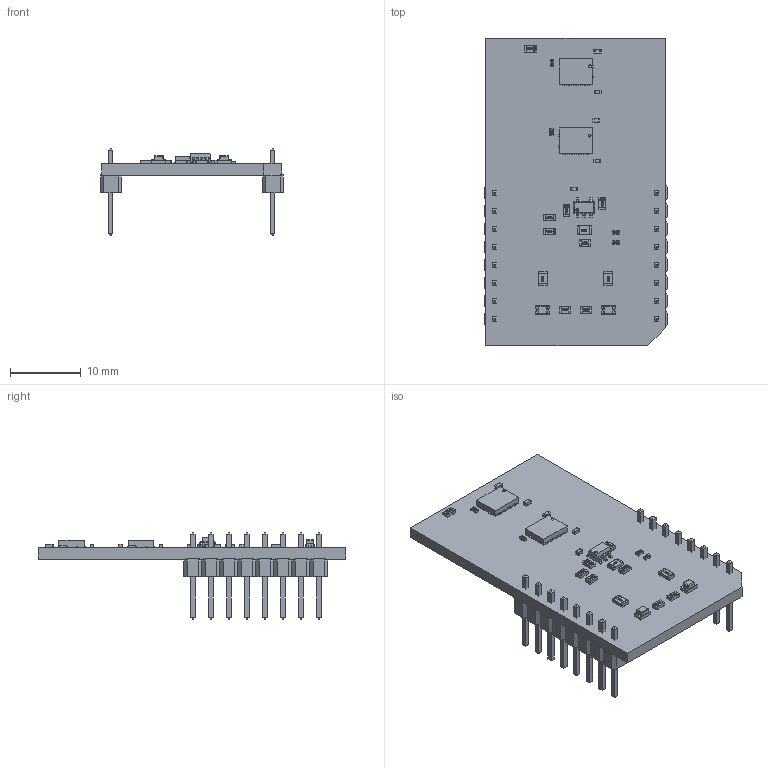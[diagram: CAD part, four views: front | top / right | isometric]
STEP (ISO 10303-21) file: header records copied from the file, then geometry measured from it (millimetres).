
FILE_DESCRIPTION(('Open CASCADE Model'),'2;1');
FILE_NAME('Open CASCADE Shape Model','2026-03-02T11:24:29',('Author'),( 'Open CASCADE'),'Open CASCADE STEP processor 6.8','Open CASCADE 6.8' ,'Unknown');
FILE_SCHEMA(('AUTOMOTIVE_DESIGN { 1 0 10303 214 1 1 1 1 }'));
Length unit declared in the file: millimetre
Products named in the file (50): PCB; Board; R1; User_Library-R_0603; LD1; led_0805_green; R13; User_Library-R_0402; R14; U2; 862477768; Extruded; 862480352; 862486608; 862487560; 1160701648; Cylinder; U1; R5; R3; R15; R2; LD2; C4; User_Library-SMD_CAPACITOR0402; C3; C2; C1; MBD1; Header_1x8; Free-Models; 1240637040; User_Library-PinHeaderX5-1_PinHeaderX5_Body_1; User_Library-PinHeaderX5-1_PinHeaderX5_Pins_1; C5; R6; R7; R8; User_Library-R_0805; R9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
Assembly tree (107 placements, depth 7):
  PCB
    Board
    R1
      User_Library-R_0603
    LD1
      led_0805_green
    R13
      User_Library-R_0402
    R14
      User_Library-R_0402
    U2
      862477768
        Extruded
      862480352  x16
        Extruded
      862486608  x3
        Extruded
      862487560
        Extruded
      1160701648
        Cylinder
    U1
      862477768
        Extruded
      862480352  x16
        Extruded
      862486608  x4
        Extruded
      1160701648
        Cylinder
    R5
      User_Library-R_0603
    R3
      User_Library-R_0402
    R15
      User_Library-R_0402
    R2
      User_Library-R_0603
    LD2
      led_0805_green
    C4
      User_Library-SMD_CAPACITOR0402
    C3
      User_Library-SMD_CAPACITOR0402
    C2
      User_Library-SMD_CAPACITOR0402
    C1
      User_Library-SMD_CAPACITOR0402
    MBD1
      Header_1x8  x2
        PCB
          Free-Models
            1240637040  x2
              User_Library-PinHeaderX5-1_PinHeaderX5_Body_1
              User_Library-PinHeaderX5-1_PinHeaderX5_Pins_1
    C5
      User_Library-SMD_CAPACITOR0402
    R6
      User_Library-R_0603
    R7
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Bounding box: 25.78 x 43.41 x 12.19 mm (x, y, z)
Volume: 2334.6 mm3; surface area: 4054 mm2
Topology: 121 solids, 121 shells, 2536 faces, 6229 edges, 4010 vertices
Faces by surface type: plane 1772, bspline 590, cylinder 124, sphere 50
Full cylindrical faces by diameter (mm): 0.4 x2
Entity records: 28975 total; most frequent: CARTESIAN_POINT 10428, ORIENTED_EDGE 3014, DIRECTION 2594, EDGE_CURVE 1507, LINE 1178, VECTOR 1178, VERTEX_POINT 970, AXIS2_PLACEMENT_3D 708
